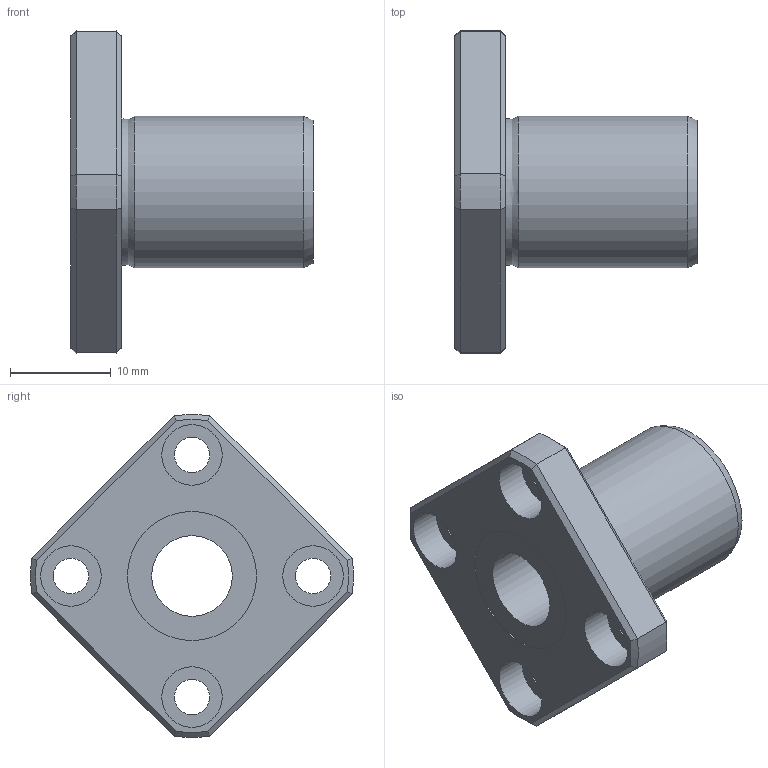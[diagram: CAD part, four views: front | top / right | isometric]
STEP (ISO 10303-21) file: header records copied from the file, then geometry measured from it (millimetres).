
FILE_DESCRIPTION((''),'2;1');
FILE_NAME('D:\製品 (図面)\カタログ用3D\リニアベアリング関連\STEP形式\LFK\LFK8B.stp','2010-06-04T08:47:08',('Tsuchiya'),(''),'Autodesk Inventor 10','Autodesk Inventor 10','');
FILE_SCHEMA(('AUTOMOTIVE_DESIGN { 1 0 10303 214 1 1 1 1 }'));
Length unit declared in the file: millimetre
Products named in the file (1): LFK8B
Bounding box: 24 x 31.98 x 31.98 mm (x, y, z)
Volume: 4725.4 mm3; surface area: 3280.5 mm2
Topology: 1 solids, 1 shells, 47 faces, 96 edges, 58 vertices
Faces by surface type: plane 21, cylinder 16, cone 8, torus 1, bspline 1
Full cylindrical faces by diameter (mm): 3.5 x4, 6 x4, 8 x1, 12.8 x2, 15 x1
Entity records: 1275 total; most frequent: CARTESIAN_POINT 298, DIRECTION 202, ORIENTED_EDGE 164, AXIS2_PLACEMENT_3D 89, EDGE_CURVE 82, EDGE_LOOP 78, VERTEX_POINT 58, FACE_OUTER_BOUND 47
